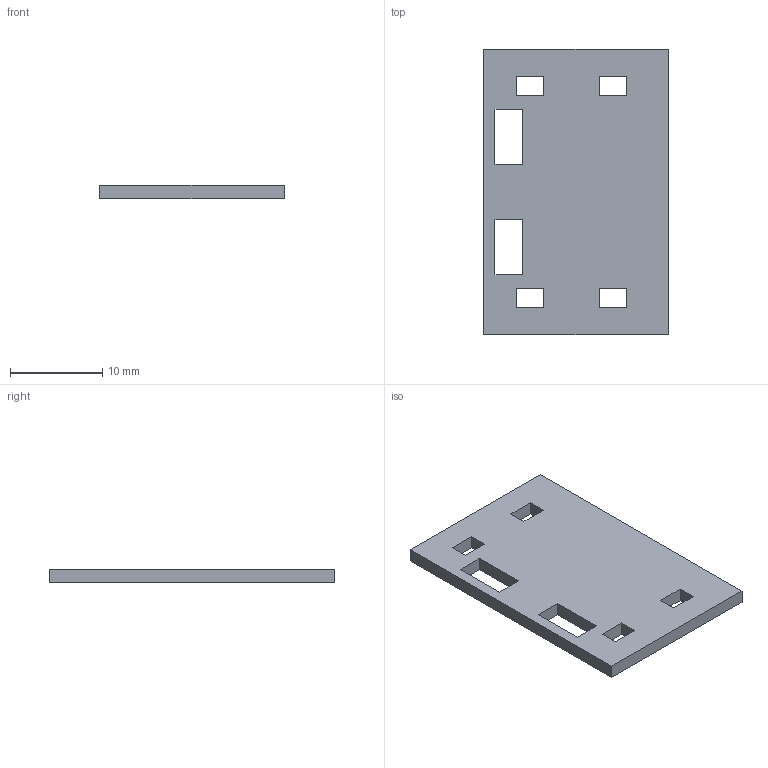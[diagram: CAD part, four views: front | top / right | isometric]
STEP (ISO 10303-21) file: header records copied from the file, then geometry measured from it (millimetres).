
FILE_DESCRIPTION(('SkyG Speed 120B - revision C7B-1 - 2026-10-09','N0M-vtx-shelf'),'2;1');
FILE_NAME('N0M-vtx-shelf_C7B-1','2026-10-09T15:13:00',('Author'),( 'Open CASCADE'),'Open CASCADE STEP processor 7.9','Open CASCADE 7.9' ,'Unknown');
FILE_SCHEMA(('AUTOMOTIVE_DESIGN { 1 0 10303 214 1 1 1 1 }'));
Length unit declared in the file: millimetre
Products named in the file (1): N0M-vtx-shelf C7B-1
Bounding box: 20 x 31 x 1.5 mm (x, y, z)
Volume: 840 mm3; surface area: 1387 mm2
Topology: 1 solids, 1 shells, 30 faces, 84 edges, 56 vertices
Faces by surface type: plane 30
Entity records: 1978 total; most frequent: CARTESIAN_POINT 435, DIRECTION 218, ORIENTED_EDGE 168, PCURVE 168, DEFINITIONAL_REPRESENTATION 168, LINE 156, VECTOR 156, B_SPLINE_CURVE_WITH_KNOTS 96
